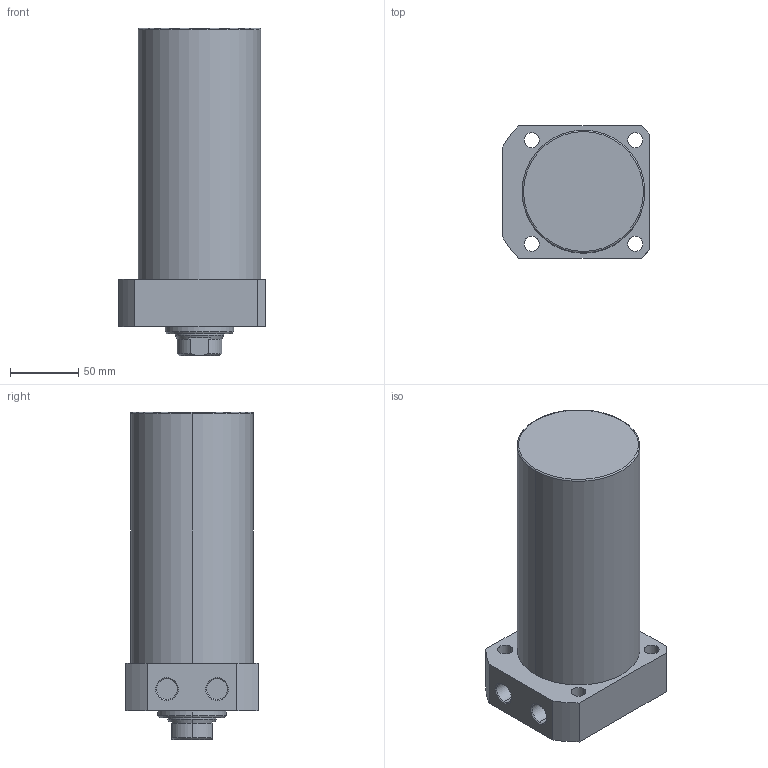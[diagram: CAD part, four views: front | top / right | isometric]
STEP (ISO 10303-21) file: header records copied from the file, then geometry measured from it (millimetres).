
FILE_DESCRIPTION (( 'STEP AP203' ), '1' );
FILE_NAME ('CLLR-090CA-140.STEP', '2019-12-18T06:29:31', ( '' ), ( '' ), 'SwSTEP 2.0', 'SolidWorks 2015', '' );
FILE_SCHEMA (( 'CONFIG_CONTROL_DESIGN' ));
Length unit declared in the file: millimetre
Products named in the file (1): CLLR-090CA-140
Bounding box: 108 x 97 x 240 mm (x, y, z)
Volume: 1519462.8 mm3; surface area: 97112.2 mm2
Topology: 1 solids, 1 shells, 65 faces, 151 edges, 94 vertices
Faces by surface type: cylinder 29, plane 19, cone 15, torus 2
Entity records: 1977 total; most frequent: CARTESIAN_POINT 357, DIRECTION 350, ORIENTED_EDGE 298, EDGE_CURVE 149, AXIS2_PLACEMENT_3D 143, VERTEX_POINT 94, EDGE_LOOP 81, CIRCLE 77
